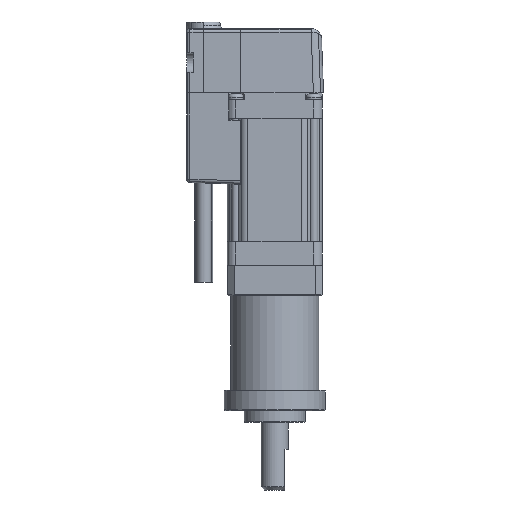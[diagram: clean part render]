
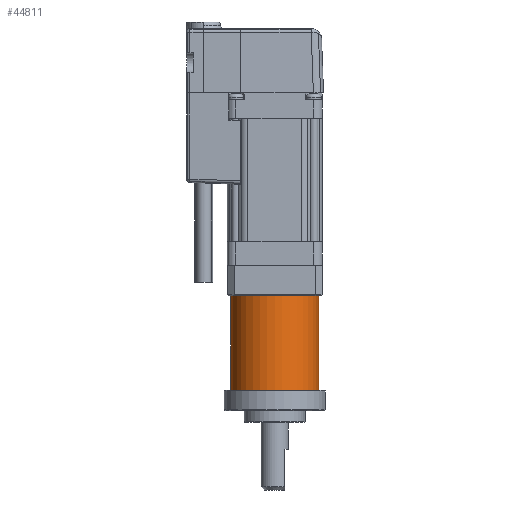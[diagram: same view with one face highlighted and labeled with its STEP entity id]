
A CAD part, front view. The second image highlights one B-rep face of the part: STEP entity #44811.
In plain terms, the highlighted cylindrical face has radius 13 mm (diameter 26 mm), a partial arc.
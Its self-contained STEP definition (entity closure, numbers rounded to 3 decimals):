
#44811 = ADVANCED_FACE('',(#44812),#44826,.T.);
#44812 = FACE_BOUND('',#44813,.T.);
#44813 = EDGE_LOOP('',(#44814,#44849,#44878,#44901));
#44814 = ORIENTED_EDGE('',*,*,#44815,.F.);
#44815 = EDGE_CURVE('',#44816,#44818,#44820,.T.);
#44816 = VERTEX_POINT('',#44817);
#44817 = CARTESIAN_POINT('',(94.124,156.917,10.75));
#44818 = VERTEX_POINT('',#44819);
#44819 = CARTESIAN_POINT('',(122.124,156.917,10.75));
#44820 = SURFACE_CURVE('',#44821,(#44825,#44837),.PCURVE_S1.);
#44821 = LINE('',#44822,#44823);
#44822 = CARTESIAN_POINT('',(94.124,156.917,10.75));
#44823 = VECTOR('',#44824,1.);
#44824 = DIRECTION('',(1.,0.,0.));
#44825 = PCURVE('',#44826,#44831);
#44826 = CYLINDRICAL_SURFACE('',#44827,13.);
#44827 = AXIS2_PLACEMENT_3D('',#44828,#44829,#44830);
#44828 = CARTESIAN_POINT('',(94.124,156.917,-2.25));
#44829 = DIRECTION('',(-1.,0.,0.));
#44830 = DIRECTION('',(0.,0.,1.));
#44831 = DEFINITIONAL_REPRESENTATION('',(#44832),#44836);
#44832 = LINE('',#44833,#44834);
#44833 = CARTESIAN_POINT('',(6.283,0.));
#44834 = VECTOR('',#44835,1.);
#44835 = DIRECTION('',(0.,-1.));
#44836 = ( GEOMETRIC_REPRESENTATION_CONTEXT(2) 
PARAMETRIC_REPRESENTATION_CONTEXT() REPRESENTATION_CONTEXT('2D SPACE',''
  ) );
#44837 = PCURVE('',#44838,#44843);
#44838 = CYLINDRICAL_SURFACE('',#44839,13.);
#44839 = AXIS2_PLACEMENT_3D('',#44840,#44841,#44842);
#44840 = CARTESIAN_POINT('',(94.124,156.917,-2.25));
#44841 = DIRECTION('',(-1.,0.,0.));
#44842 = DIRECTION('',(0.,0.,1.));
#44843 = DEFINITIONAL_REPRESENTATION('',(#44844),#44848);
#44844 = LINE('',#44845,#44846);
#44845 = CARTESIAN_POINT('',(0.,0.));
#44846 = VECTOR('',#44847,1.);
#44847 = DIRECTION('',(0.,-1.));
#44848 = ( GEOMETRIC_REPRESENTATION_CONTEXT(2) 
PARAMETRIC_REPRESENTATION_CONTEXT() REPRESENTATION_CONTEXT('2D SPACE',''
  ) );
#44849 = ORIENTED_EDGE('',*,*,#44850,.T.);
#44850 = EDGE_CURVE('',#44816,#44851,#44853,.T.);
#44851 = VERTEX_POINT('',#44852);
#44852 = CARTESIAN_POINT('',(94.124,156.917,-15.25));
#44853 = SURFACE_CURVE('',#44854,(#44859,#44866),.PCURVE_S1.);
#44854 = CIRCLE('',#44855,13.);
#44855 = AXIS2_PLACEMENT_3D('',#44856,#44857,#44858);
#44856 = CARTESIAN_POINT('',(94.124,156.917,-2.25));
#44857 = DIRECTION('',(1.,0.,0.));
#44858 = DIRECTION('',(0.,0.,1.));
#44859 = PCURVE('',#44826,#44860);
#44860 = DEFINITIONAL_REPRESENTATION('',(#44861),#44865);
#44861 = LINE('',#44862,#44863);
#44862 = CARTESIAN_POINT('',(6.283,0.));
#44863 = VECTOR('',#44864,1.);
#44864 = DIRECTION('',(-1.,0.));
#44865 = ( GEOMETRIC_REPRESENTATION_CONTEXT(2) 
PARAMETRIC_REPRESENTATION_CONTEXT() REPRESENTATION_CONTEXT('2D SPACE',''
  ) );
#44866 = PCURVE('',#44867,#44872);
#44867 = PLANE('',#44868);
#44868 = AXIS2_PLACEMENT_3D('',#44869,#44870,#44871);
#44869 = CARTESIAN_POINT('',(94.124,156.917,-2.25));
#44870 = DIRECTION('',(1.,0.,0.));
#44871 = DIRECTION('',(0.,0.,1.));
#44872 = DEFINITIONAL_REPRESENTATION('',(#44873),#44877);
#44873 = CIRCLE('',#44874,13.);
#44874 = AXIS2_PLACEMENT_2D('',#44875,#44876);
#44875 = CARTESIAN_POINT('',(0.,0.));
#44876 = DIRECTION('',(1.,0.));
#44877 = ( GEOMETRIC_REPRESENTATION_CONTEXT(2) 
PARAMETRIC_REPRESENTATION_CONTEXT() REPRESENTATION_CONTEXT('2D SPACE',''
  ) );
#44878 = ORIENTED_EDGE('',*,*,#44879,.F.);
#44879 = EDGE_CURVE('',#44880,#44851,#44882,.T.);
#44880 = VERTEX_POINT('',#44881);
#44881 = CARTESIAN_POINT('',(122.124,156.917,-15.25));
#44882 = SURFACE_CURVE('',#44883,(#44887,#44894),.PCURVE_S1.);
#44883 = LINE('',#44884,#44885);
#44884 = CARTESIAN_POINT('',(94.124,156.917,-15.25));
#44885 = VECTOR('',#44886,1.);
#44886 = DIRECTION('',(-1.,0.,0.));
#44887 = PCURVE('',#44826,#44888);
#44888 = DEFINITIONAL_REPRESENTATION('',(#44889),#44893);
#44889 = LINE('',#44890,#44891);
#44890 = CARTESIAN_POINT('',(3.142,0.));
#44891 = VECTOR('',#44892,1.);
#44892 = DIRECTION('',(0.,1.));
#44893 = ( GEOMETRIC_REPRESENTATION_CONTEXT(2) 
PARAMETRIC_REPRESENTATION_CONTEXT() REPRESENTATION_CONTEXT('2D SPACE',''
  ) );
#44894 = PCURVE('',#44838,#44895);
#44895 = DEFINITIONAL_REPRESENTATION('',(#44896),#44900);
#44896 = LINE('',#44897,#44898);
#44897 = CARTESIAN_POINT('',(3.142,0.));
#44898 = VECTOR('',#44899,1.);
#44899 = DIRECTION('',(0.,1.));
#44900 = ( GEOMETRIC_REPRESENTATION_CONTEXT(2) 
PARAMETRIC_REPRESENTATION_CONTEXT() REPRESENTATION_CONTEXT('2D SPACE',''
  ) );
#44901 = ORIENTED_EDGE('',*,*,#44902,.T.);
#44902 = EDGE_CURVE('',#44880,#44818,#44903,.T.);
#44903 = SURFACE_CURVE('',#44904,(#44909,#44916),.PCURVE_S1.);
#44904 = CIRCLE('',#44905,13.);
#44905 = AXIS2_PLACEMENT_3D('',#44906,#44907,#44908);
#44906 = CARTESIAN_POINT('',(122.124,156.917,-2.25));
#44907 = DIRECTION('',(-1.,0.,0.));
#44908 = DIRECTION('',(0.,0.,1.));
#44909 = PCURVE('',#44826,#44910);
#44910 = DEFINITIONAL_REPRESENTATION('',(#44911),#44915);
#44911 = LINE('',#44912,#44913);
#44912 = CARTESIAN_POINT('',(0.,-28.));
#44913 = VECTOR('',#44914,1.);
#44914 = DIRECTION('',(1.,0.));
#44915 = ( GEOMETRIC_REPRESENTATION_CONTEXT(2) 
PARAMETRIC_REPRESENTATION_CONTEXT() REPRESENTATION_CONTEXT('2D SPACE',''
  ) );
#44916 = PCURVE('',#44917,#44922);
#44917 = PLANE('',#44918);
#44918 = AXIS2_PLACEMENT_3D('',#44919,#44920,#44921);
#44919 = CARTESIAN_POINT('',(122.124,156.917,-2.25));
#44920 = DIRECTION('',(1.,0.,0.));
#44921 = DIRECTION('',(0.,0.,1.));
#44922 = DEFINITIONAL_REPRESENTATION('',(#44923),#44931);
#44923 = ( BOUNDED_CURVE() B_SPLINE_CURVE(2,(#44924,#44925,#44926,#44927
    ,#44928,#44929,#44930),.UNSPECIFIED.,.T.,.F.) 
B_SPLINE_CURVE_WITH_KNOTS((1,2,2,2,2,1),(-2.094,0.,
    2.094,4.189,6.283,8.378),
.UNSPECIFIED.) CURVE() GEOMETRIC_REPRESENTATION_ITEM() 
RATIONAL_B_SPLINE_CURVE((1.,0.5,1.,0.5,1.,0.5,1.)) REPRESENTATION_ITEM(
  '') );
#44924 = CARTESIAN_POINT('',(13.,0.));
#44925 = CARTESIAN_POINT('',(13.,-22.517));
#44926 = CARTESIAN_POINT('',(-6.5,-11.258));
#44927 = CARTESIAN_POINT('',(-26.,0.));
#44928 = CARTESIAN_POINT('',(-6.5,11.258));
#44929 = CARTESIAN_POINT('',(13.,22.517));
#44930 = CARTESIAN_POINT('',(13.,0.));
#44931 = ( GEOMETRIC_REPRESENTATION_CONTEXT(2) 
PARAMETRIC_REPRESENTATION_CONTEXT() REPRESENTATION_CONTEXT('2D SPACE',''
  ) );
